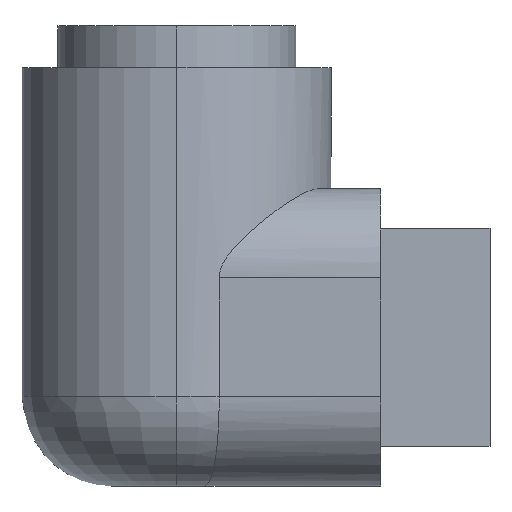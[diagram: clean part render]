
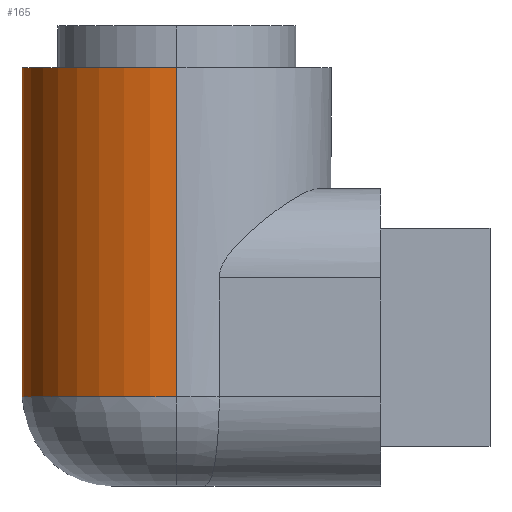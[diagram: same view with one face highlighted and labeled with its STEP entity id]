
A CAD part, left-side view. The second image highlights one B-rep face of the part: STEP entity #165.
In plain terms, the highlighted cylindrical face has radius 7.8 mm (diameter 15.6 mm), a partial arc.
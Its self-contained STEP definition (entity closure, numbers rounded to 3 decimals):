
#140 = ORIENTED_EDGE ( 'NONE', *, *, #141, .T. ) ;
#141 = EDGE_CURVE ( 'NONE', #176, #142, #496, .T. ) ;
#142 = VERTEX_POINT ( 'NONE', #492 ) ;
#143 = ORIENTED_EDGE ( 'NONE', *, *, #144, .F. ) ;
#144 = EDGE_CURVE ( 'NONE', #145, #142, #491, .T. ) ;
#145 = VERTEX_POINT ( 'NONE', #486 ) ;
#146 = ORIENTED_EDGE ( 'NONE', *, *, #147, .F. ) ;
#147 = EDGE_CURVE ( 'NONE', #179, #145, #485, .T. ) ;
#165 = ADVANCED_FACE ( 'NONE', ( #572 ), #547, .T. ) ;
#166 = EDGE_LOOP ( 'NONE', ( #167, #140, #143, #146 ) ) ;
#167 = ORIENTED_EDGE ( 'NONE', *, *, #178, .T. ) ;
#176 = VERTEX_POINT ( 'NONE', #594 ) ;
#178 = EDGE_CURVE ( 'NONE', #179, #176, #593, .T. ) ;
#179 = VERTEX_POINT ( 'NONE', #588 ) ;
#482 = DIRECTION ( 'NONE',  ( 0., 0., 1. ) ) ;
#483 = VECTOR ( 'NONE', #482, 1000. ) ;
#484 = CARTESIAN_POINT ( 'NONE',  ( 7.8, 10.3, -29.562 ) ) ;
#485 = LINE ( 'NONE', #484, #483 ) ;
#486 = CARTESIAN_POINT ( 'NONE',  ( 7.8, 10.3, 13.6 ) ) ;
#487 = DIRECTION ( 'NONE',  ( 1., 0., 0. ) ) ;
#488 = DIRECTION ( 'NONE',  ( 0., 0., 1. ) ) ;
#489 = CARTESIAN_POINT ( 'NONE',  ( 0., 10.3, 13.6 ) ) ;
#490 = AXIS2_PLACEMENT_3D ( 'NONE', #489, #488, #487 ) ;
#491 = CIRCLE ( 'NONE', #490, 7.8 ) ;
#492 = CARTESIAN_POINT ( 'NONE',  ( -7.8, 10.3, 13.6 ) ) ;
#493 = DIRECTION ( 'NONE',  ( 0., 0., 1. ) ) ;
#494 = VECTOR ( 'NONE', #493, 1000. ) ;
#495 = CARTESIAN_POINT ( 'NONE',  ( -7.8, 10.3, -29.562 ) ) ;
#496 = LINE ( 'NONE', #495, #494 ) ;
#544 = DIRECTION ( 'NONE',  ( 1., 0., 0. ) ) ;
#545 = AXIS2_PLACEMENT_3D ( 'NONE', #546, #570, #544 ) ;
#546 = CARTESIAN_POINT ( 'NONE',  ( 0., 10.3, -29.562 ) ) ;
#547 = CYLINDRICAL_SURFACE ( 'NONE', #545, 7.8 ) ;
#570 = DIRECTION ( 'NONE',  ( 0., 0., 1. ) ) ;
#572 = FACE_OUTER_BOUND ( 'NONE', #166, .T. ) ;
#588 = CARTESIAN_POINT ( 'NONE',  ( 7.8, 10.3, -3. ) ) ;
#589 = DIRECTION ( 'NONE',  ( 1., 0., 0. ) ) ;
#590 = DIRECTION ( 'NONE',  ( 0., 0., 1. ) ) ;
#591 = CARTESIAN_POINT ( 'NONE',  ( 0., 10.3, -3. ) ) ;
#592 = AXIS2_PLACEMENT_3D ( 'NONE', #591, #590, #589 ) ;
#593 = CIRCLE ( 'NONE', #592, 7.8 ) ;
#594 = CARTESIAN_POINT ( 'NONE',  ( -7.8, 10.3, -3. ) ) ;
